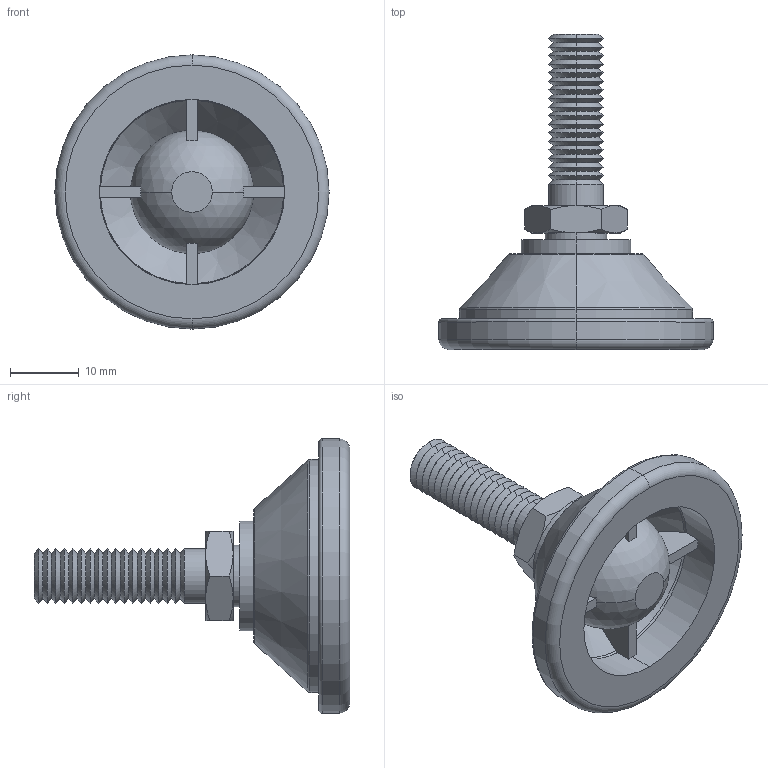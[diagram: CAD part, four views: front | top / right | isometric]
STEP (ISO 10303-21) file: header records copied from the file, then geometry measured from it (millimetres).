
FILE_DESCRIPTION (( 'STEP AP203' ), '1' );
FILE_NAME ('34741.W0080.step', '2016-09-22T07:37:49', ( 'User' ), ( '' ), 'SwSTEP 2.0', 'SolidWorks 2009', '' );
FILE_SCHEMA (( 'CONFIG_CONTROL_DESIGN' ));
Length unit declared in the file: millimetre
Products named in the file (3): 34741.W0080; Part1_34741.W0080; Part2_34741.W0080
Assembly tree (2 placements, depth 2):
  34741.W0080
    Part2_34741.W0080
    Part1_34741.W0080
Bounding box: 40 x 46 x 40 mm (x, y, z)
Volume: 10317.7 mm3; surface area: 7028.5 mm2
Topology: 2 solids, 2 shells, 148 faces, 332 edges, 190 vertices
Faces by surface type: cone 90, plane 26, cylinder 14, torus 12, sphere 6
Entity records: 4437 total; most frequent: CARTESIAN_POINT 861, DIRECTION 762, ORIENTED_EDGE 646, AXIS2_PLACEMENT_3D 326, EDGE_CURVE 323, VERTEX_POINT 185, CIRCLE 173, EDGE_LOOP 154
